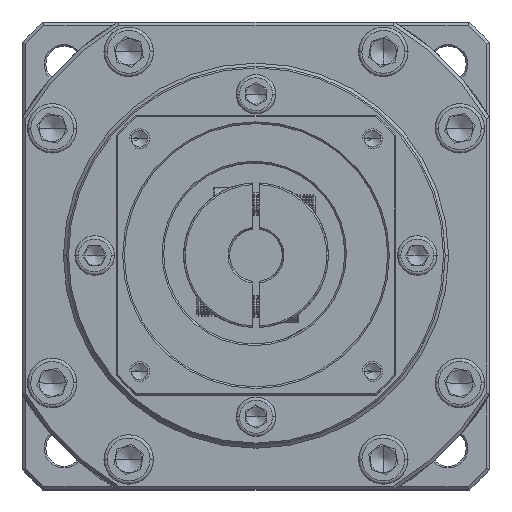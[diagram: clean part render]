
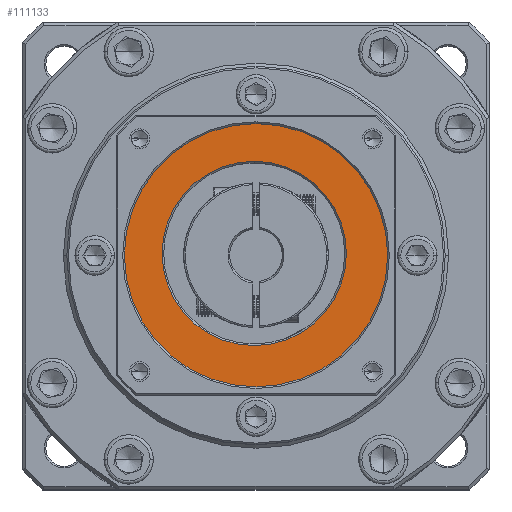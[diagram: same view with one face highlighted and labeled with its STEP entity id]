
A CAD part, top view. The second image highlights one B-rep face of the part: STEP entity #111133.
In plain terms, the highlighted planar face has unit normal (0, 0, 1).
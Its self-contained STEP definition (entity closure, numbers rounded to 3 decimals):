
#1485 = CIRCLE ( 'NONE', #101405, 40. ) ;
#2497 = CARTESIAN_POINT ( 'NONE',  ( -71.124, 76.202, -52.007 ) ) ;
#3114 = AXIS2_PLACEMENT_3D ( 'NONE', #79754, #126053, #136421 ) ;
#3741 = DIRECTION ( 'NONE',  ( 1., 0., 0. ) ) ;
#3963 = AXIS2_PLACEMENT_3D ( 'NONE', #142901, #41408, #7815 ) ;
#7815 = DIRECTION ( 'NONE',  ( 1., 0., 0. ) ) ;
#10879 = EDGE_CURVE ( 'NONE', #136760, #119619, #100733, .T. ) ;
#15619 = DIRECTION ( 'NONE',  ( 1., 0., 0. ) ) ;
#18372 = AXIS2_PLACEMENT_3D ( 'NONE', #120616, #128059, #15619 ) ;
#18410 = AXIS2_PLACEMENT_3D ( 'NONE', #133129, #144394, #87242 ) ;
#33882 = CIRCLE ( 'NONE', #3963, 28. ) ;
#38520 = CARTESIAN_POINT ( 'NONE',  ( -58.582, 75.668, -52.007 ) ) ;
#39083 = EDGE_LOOP ( 'NONE', ( #118493, #84193 ) ) ;
#41040 = EDGE_LOOP ( 'NONE', ( #65708, #106830 ) ) ;
#41408 = DIRECTION ( 'NONE',  ( 0., 0., -1. ) ) ;
#47507 = CARTESIAN_POINT ( 'NONE',  ( -127.124, 76.202, -52.007 ) ) ;
#55088 = CIRCLE ( 'NONE', #18410, 28. ) ;
#60061 = DIRECTION ( 'NONE',  ( 0., 0., 1. ) ) ;
#65708 = ORIENTED_EDGE ( 'NONE', *, *, #123712, .T. ) ;
#69410 = PLANE ( 'NONE',  #3114 ) ;
#71348 = CARTESIAN_POINT ( 'NONE',  ( -98.582, 75.668, -52.007 ) ) ;
#79754 = CARTESIAN_POINT ( 'NONE',  ( -98.582, 75.668, -52.007 ) ) ;
#82511 = FACE_BOUND ( 'NONE', #41040, .T. ) ;
#84193 = ORIENTED_EDGE ( 'NONE', *, *, #140298, .T. ) ;
#85024 = VERTEX_POINT ( 'NONE', #2497 ) ;
#87242 = DIRECTION ( 'NONE',  ( 1., 0., 0. ) ) ;
#99914 = FACE_OUTER_BOUND ( 'NONE', #39083, .T. ) ;
#100733 = CIRCLE ( 'NONE', #18372, 40. ) ;
#101405 = AXIS2_PLACEMENT_3D ( 'NONE', #71348, #60061, #3741 ) ;
#106830 = ORIENTED_EDGE ( 'NONE', *, *, #120102, .T. ) ;
#111133 = ADVANCED_FACE ( 'NONE', ( #99914, #82511 ), #69410, .T. ) ;
#115429 = CARTESIAN_POINT ( 'NONE',  ( -138.582, 75.668, -52.007 ) ) ;
#118493 = ORIENTED_EDGE ( 'NONE', *, *, #10879, .T. ) ;
#119619 = VERTEX_POINT ( 'NONE', #115429 ) ;
#120102 = EDGE_CURVE ( 'NONE', #141803, #85024, #55088, .T. ) ;
#120616 = CARTESIAN_POINT ( 'NONE',  ( -98.582, 75.668, -52.007 ) ) ;
#123712 = EDGE_CURVE ( 'NONE', #85024, #141803, #33882, .T. ) ;
#126053 = DIRECTION ( 'NONE',  ( 0., 0., 1. ) ) ;
#128059 = DIRECTION ( 'NONE',  ( 0., 0., 1. ) ) ;
#133129 = CARTESIAN_POINT ( 'NONE',  ( -99.124, 76.202, -52.007 ) ) ;
#136421 = DIRECTION ( 'NONE',  ( 1., 0., 0. ) ) ;
#136760 = VERTEX_POINT ( 'NONE', #38520 ) ;
#140298 = EDGE_CURVE ( 'NONE', #119619, #136760, #1485, .T. ) ;
#141803 = VERTEX_POINT ( 'NONE', #47507 ) ;
#142901 = CARTESIAN_POINT ( 'NONE',  ( -99.124, 76.202, -52.007 ) ) ;
#144394 = DIRECTION ( 'NONE',  ( 0., 0., -1. ) ) ;
